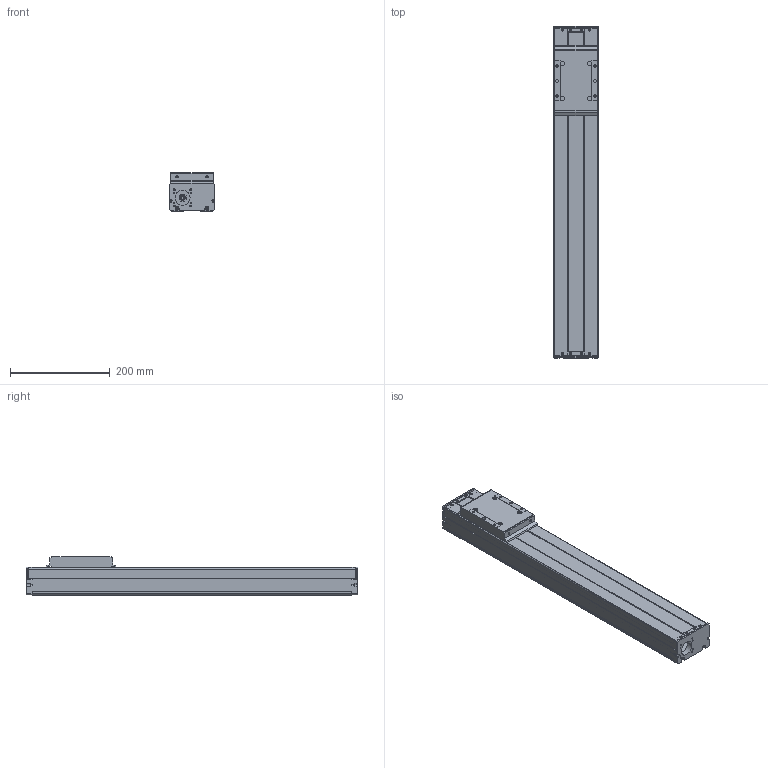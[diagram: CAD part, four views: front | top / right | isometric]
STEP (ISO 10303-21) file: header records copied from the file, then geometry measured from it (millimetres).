
FILE_DESCRIPTION (( 'STEP AP214' ), '1' );
FILE_NAME ('HZMotion TKS90-400A1F0.STEP', '2021-09-15T10:33:06', ( 'AutoBVT' ), ( 'Microsoft' ), 'SwSTEP 2.0', 'SolidWorks 2020', '' );
FILE_SCHEMA (( 'AUTOMOTIVE_DESIGN' ));
Length unit declared in the file: millimetre
Products named in the file (3): A1F0-400-1; 400-2; HZMotion TKS90-400A1F0
Assembly tree (2 placements, depth 2):
  HZMotion TKS90-400A1F0
    400-2
    A1F0-400-1
Bounding box: 90 x 664 x 78 mm (x, y, z)
Volume: 1227460.2 mm3; surface area: 464190.3 mm2
Topology: 2 solids, 6 shells, 520 faces, 1355 edges, 874 vertices
Faces by surface type: plane 269, cylinder 215, cone 32, torus 4
Entity records: 16045 total; most frequent: DIRECTION 2845, CARTESIAN_POINT 2730, ORIENTED_EDGE 2662, EDGE_CURVE 1331, AXIS2_PLACEMENT_3D 989, VERTEX_POINT 874, VECTOR 867, LINE 867
